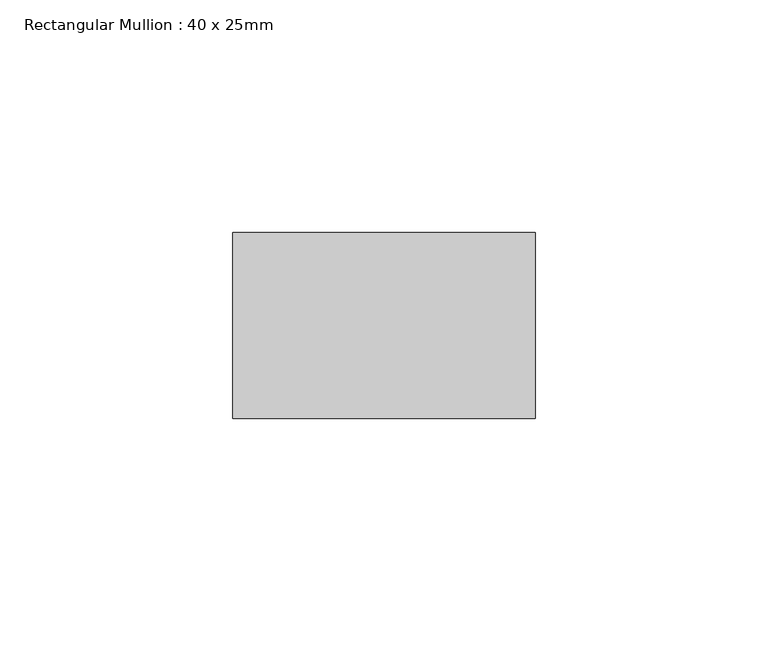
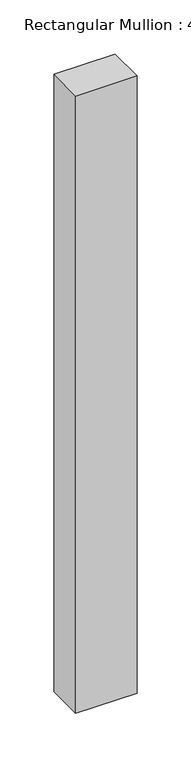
"""IFC4 building model written with IfcOpenShell, lengths in millimetres: member geometry, Rectangular Mullion : 40 x 25mm."""

from ifc_helpers import new_model, si_unit, frame, origin, place, context, project, spatial, polyline, outline, extrude, source, transform, mapped, element, save


def rectangular_mullion_40_x_25mm_5ea5f5c7(model_context):
    return source(origin(), model_context, "Body", "SweptSolid", [
        extrude(outline(polyline([(0.0, -20.0), (0.0, -60.0), (-65.0, -60.0), (-65.0, -20.0), (0.0, -20.0)])), frame((0.0, 0.0, -695.0), z_axis=(0.0, 0.0, 1.0), x_axis=(1.0, 0.0, 0.0)), (0.0, 0.0, 1.0), 695.0),
    ])


if __name__ == "__main__":
    model = new_model("IFC4")
    model_context = context("Model", 3, world=origin())
    ifc_project = project(units=[si_unit("LENGTHUNIT", "METRE", prefix="MILLI")], contexts=[model_context])
    site = spatial("IfcSite", under=ifc_project)
    building = spatial("IfcBuilding", under=site)
    placement = place(None, origin())
    rectangular_mullion_40_x_25mm_shape = rectangular_mullion_40_x_25mm_5ea5f5c7(model_context)
    element("IfcMember", 1, ObjectType="Rectangular Mullion : 40 x 25mm", at=placement, inside=building, context=model_context, shape_type="MappedRepresentation", body=[
        mapped(rectangular_mullion_40_x_25mm_shape, transform((0.0, 0.0, 0.0), x_axis=(1.0, 0.0, 0.0), y_axis=(0.0, 1.0, 0.0), z_axis=(0.0, 0.0, 1.0))),
    ])
    save(model, "model.ifc")
